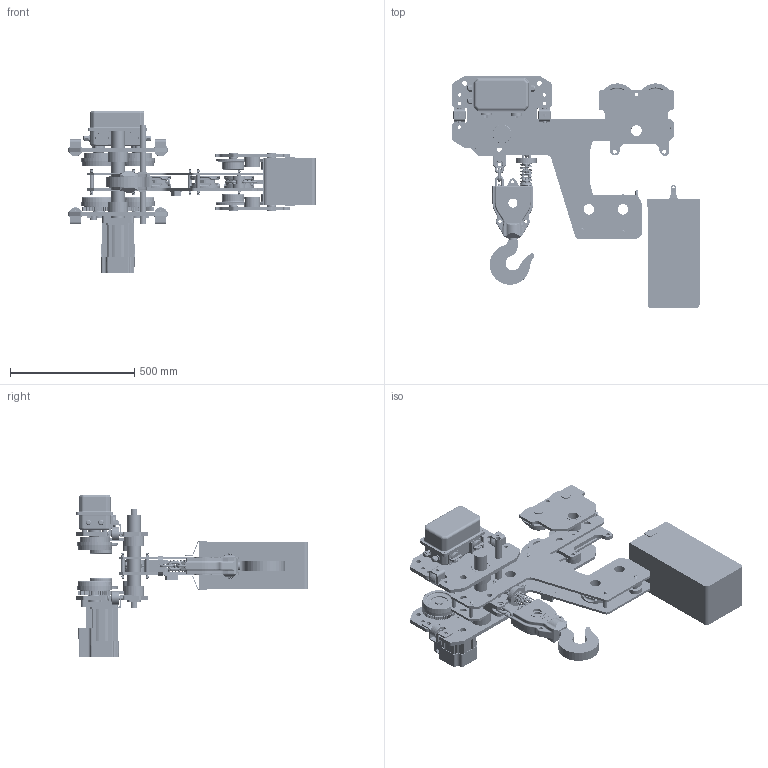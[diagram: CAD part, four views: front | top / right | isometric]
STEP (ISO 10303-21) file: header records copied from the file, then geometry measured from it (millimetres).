
FILE_DESCRIPTION(/* description */ (''),/* implementation_level */ '2;1');
FILE_NAME(/* name */ 'YJ 05-02 超低吊.stp',/* time_stamp */ '2026-06-12T13:33:55+08:00',/* author */ (''),/* organization */ (''),/* preprocessor_version */ 'ST-DEVELOPER v16.7',/* originating_system */ 'SIEMENS PLM Software NX 12.0',/* authorisation */ '');
FILE_SCHEMA (('AP203_CONFIGURATION_CONTROLLED_3D_DESIGN_OF_MECHANICAL_PARTS_AND_ASSEMBLIES_MIM_LF { 1 0 10303 403 2 1 2}'));
Products named in the file (1): AFE04DC1Dhxq6
Bounding box: 995.25 x 935.15 x 652.98 mm (x, y, z)
Volume: 18211048.2 mm3; surface area: 4852389.2 mm2
Topology: 113 solids, 124 shells, 6223 faces, 15599 edges, 9720 vertices
Faces by surface type: cylinder 2212, plane 1780, extrusion 782, torus 766, bspline 486, cone 129, sphere 68
Full cylindrical faces by diameter (mm): 1.301 x4, 2.5 x4, 3 x2, 3.2 x4, 3.5 x1, 4.2 x12, 5 x8, 5.326 x2, 5.7 x4, 6 x4, 6.3 x4, 6.4 x8, 6.5 x6, 6.8 x6, 7.46 x2, 7.638 x2, 8 x4, 8.6 x8, 8.9 x2, 9 x2, 9.045 x2, 10.5 x4, 10.854 x2, 11.8 x126, 12 x4, 12.5 x16, 13 x4, 13.5 x4, 14 x14, 14.8 x4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
Entity records: 332273 total; most frequent: CARTESIAN_POINT 191917, ORIENTED_EDGE 28618, DIRECTION 26469, EDGE_CURVE 14309, AXIS2_PLACEMENT_3D 9876, VERTEX_POINT 9264, EDGE_LOOP 7369, VECTOR 6717
